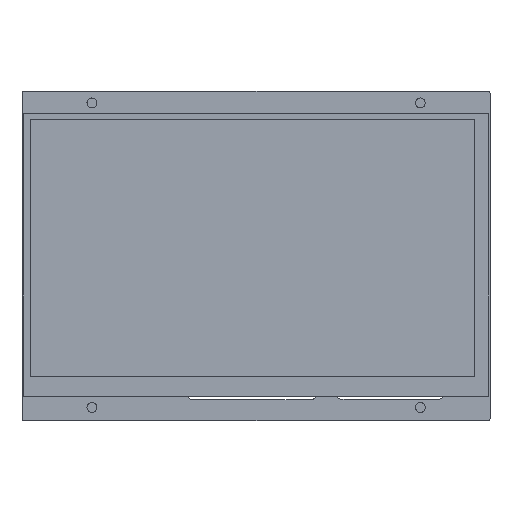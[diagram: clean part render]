
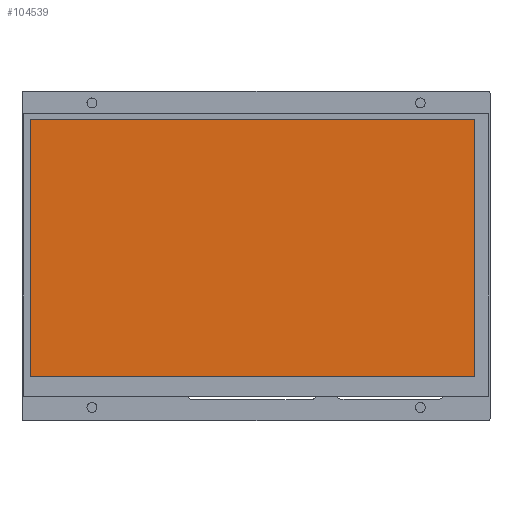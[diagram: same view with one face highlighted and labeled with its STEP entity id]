
A CAD part, top view. The second image highlights one B-rep face of the part: STEP entity #104539.
In plain terms, the highlighted planar face has unit normal (0, 0, 1).
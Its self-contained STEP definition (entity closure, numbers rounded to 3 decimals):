
#104410 = VERTEX_POINT('',#104411);
#104411 = CARTESIAN_POINT('',(-78.85,45.7,6.4));
#104417 = EDGE_CURVE('',#104410,#104418,#104420,.T.);
#104418 = VERTEX_POINT('',#104419);
#104419 = CARTESIAN_POINT('',(-78.85,-45.7,6.4));
#104420 = LINE('',#104421,#104422);
#104421 = CARTESIAN_POINT('',(-78.85,45.7,6.4));
#104422 = VECTOR('',#104423,1.);
#104423 = DIRECTION('',(0.,-1.,0.));
#104448 = EDGE_CURVE('',#104418,#104449,#104451,.T.);
#104449 = VERTEX_POINT('',#104450);
#104450 = CARTESIAN_POINT('',(78.85,-45.7,6.4));
#104451 = LINE('',#104452,#104453);
#104452 = CARTESIAN_POINT('',(-78.85,-45.7,6.4));
#104453 = VECTOR('',#104454,1.);
#104454 = DIRECTION('',(1.,0.,0.));
#104479 = EDGE_CURVE('',#104449,#104480,#104482,.T.);
#104480 = VERTEX_POINT('',#104481);
#104481 = CARTESIAN_POINT('',(78.85,45.7,6.4));
#104482 = LINE('',#104483,#104484);
#104483 = CARTESIAN_POINT('',(78.85,-45.7,6.4));
#104484 = VECTOR('',#104485,1.);
#104485 = DIRECTION('',(0.,1.,0.));
#104510 = EDGE_CURVE('',#104480,#104410,#104511,.T.);
#104511 = LINE('',#104512,#104513);
#104512 = CARTESIAN_POINT('',(78.85,45.7,6.4));
#104513 = VECTOR('',#104514,1.);
#104514 = DIRECTION('',(-1.,0.,0.));
#104539 = ADVANCED_FACE('',(#104540),#104546,.T.);
#104540 = FACE_BOUND('',#104541,.T.);
#104541 = EDGE_LOOP('',(#104542,#104543,#104544,#104545));
#104542 = ORIENTED_EDGE('',*,*,#104417,.T.);
#104543 = ORIENTED_EDGE('',*,*,#104448,.T.);
#104544 = ORIENTED_EDGE('',*,*,#104479,.T.);
#104545 = ORIENTED_EDGE('',*,*,#104510,.T.);
#104546 = PLANE('',#104547);
#104547 = AXIS2_PLACEMENT_3D('',#104548,#104549,#104550);
#104548 = CARTESIAN_POINT('',(0.,0.,
    6.4));
#104549 = DIRECTION('',(0.,0.,1.));
#104550 = DIRECTION('',(1.,0.,-0.));
